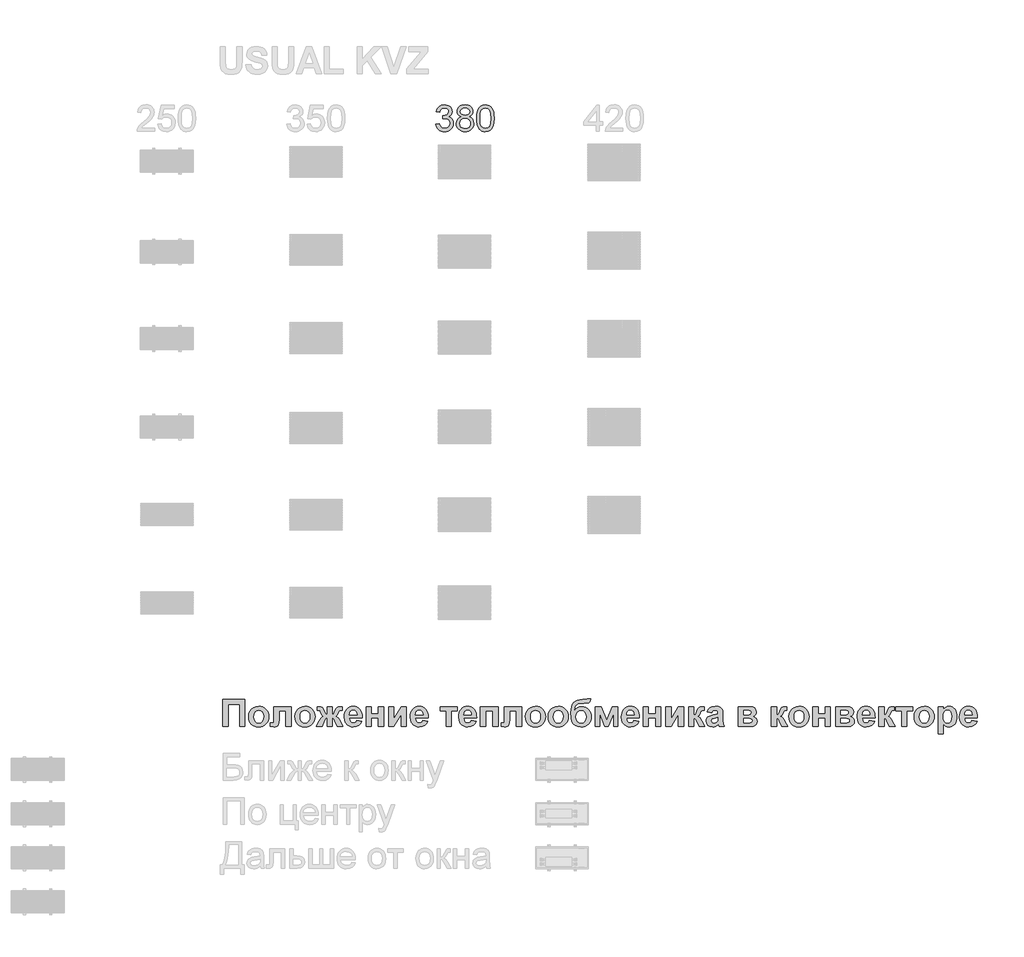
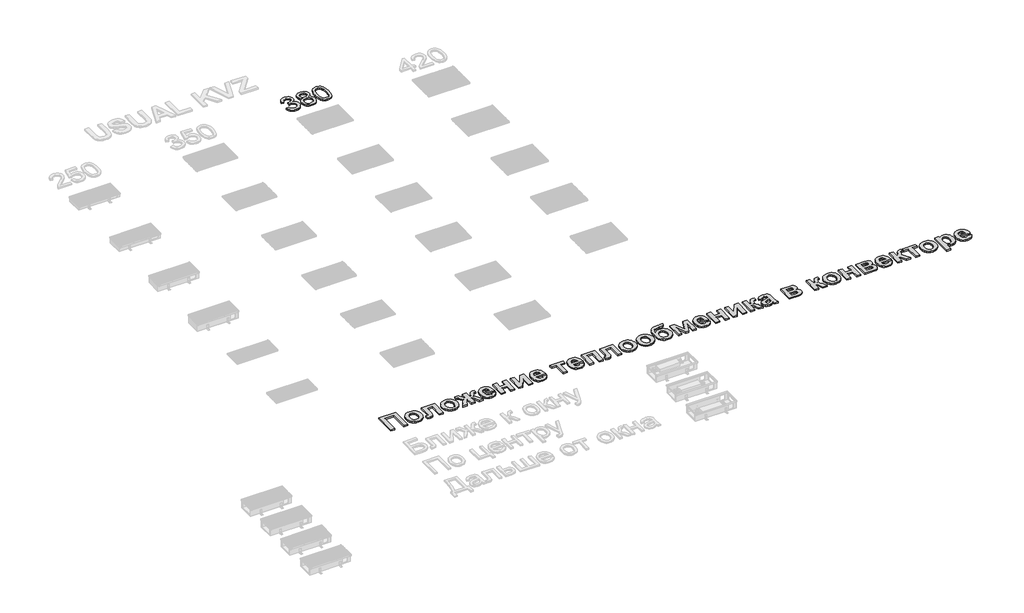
# One storey, part 11 of 12: 2 proxies.
"""IFC4 building model written with IfcOpenShell, lengths in millimetres."""

from ifc_helpers import new_model, si_unit, origin, origin_with_axes, place, context, project, spatial, polyline, outline, extrude, element, save

model = new_model("IFC4")

# Units and contexts
model_context = context("Model", 3, world=origin())
ifc_project = project(units=[si_unit("LENGTHUNIT", "METRE", prefix="MILLI")], contexts=[model_context])

# Site, building, storey
site = spatial("IfcSite", under=ifc_project)
building = spatial("IfcBuilding", under=site)
storey = spatial("IfcBuildingStorey", under=building, Name="Уровень 1", Elevation=0.0)

# Proxies
placement = place(None, origin())
element("IfcBuildingElementProxy", 1, Name="300", ObjectType="300", at=placement, inside=storey, context=model_context, shape_type="SweptSolid", body=[
    extrude(outline(polyline([(17013.8722853, -5473.9733656), (17051.5434016, -5469.264476), (17059.9770964, -5492.9376824), (17072.3287344, -5508.9221551), (17089.2053209, -5518.0272345), (17111.2138613, -5521.0622609), (17137.0391773, -5516.8868003), (17156.9783815, -5504.3604184), (17169.7254926, -5485.672013), (17173.9745296, -5463.0104821), (17169.7622808, -5441.4985824), (17157.1255343, -5424.0517788), (17137.9956705, -5412.4910871), (17114.30407, -5408.6375232), (17087.8901428, -5412.7578016), (17092.0839975, -5375.0866853), (17098.1172622, -5375.5281437), (17120.6868226, -5372.824211), (17140.8651501, -5364.712413), (17155.1021833, -5350.9904146), (17159.847861, -5331.4558806), (17156.4081644, -5315.1862994), (17146.0890744, -5301.9885328), (17130.343725, -5293.2421384), (17110.6252501, -5290.3266736), (17090.8699869, -5293.2697295), (17074.7199673, -5302.0988974), (17062.9293494, -5316.8141772), (17056.2522912, -5337.415569), (17018.5811749, -5332.7066794), (17029.672817, -5298.87993), (17049.4096861, -5273.624831), (17076.4122245, -5257.8978757), (17109.3008749, -5252.6555573), (17132.9832783, -5255.2399283), (17154.7343013, -5262.9930413), (17173.0732188, -5275.2251177), (17186.5193057, -5291.2463786), (17194.7690594, -5309.7048577), (17197.5189773, -5329.2485887), (17194.9070152, -5347.4587474), (17187.0711287, -5363.976649), (17174.1216824, -5378.0481353), (17156.1690411, -5388.9190483), (17179.750277, -5398.447192), (17197.2246717, -5414.6707879), (17208.0404024, -5436.7069194), (17211.6456459, -5463.6726697), (17209.8430242, -5482.7841393), (17204.4351588, -5500.3872928), (17195.42205, -5516.4821301), (17182.8036975, -5531.0686512), (17167.4308287, -5543.1719689), (17150.1541705, -5551.8171957), (17130.9737229, -5557.0043319), (17109.8894861, -5558.7333772), (17090.8331987, -5557.2572507), (17073.4691686, -5552.8288712), (17057.7973956, -5545.4482387), (17043.8178798, -5535.1153532), (17032.0962397, -5522.4372199), (17023.1980939, -5508.0208442), (17017.1234425, -5491.8662261), (17013.8722853, -5473.9733656)])), origin_with_axes(), (0.0, 0.0, 1.0), 20.0),
    extrude(outline(polyline([(17299.4958664, -5388.0361315), (17279.326736, -5378.1033176), (17265.1724762, -5364.6388366), (17256.8123579, -5347.9185999), (17254.0256518, -5328.2185191), (17255.543165, -5312.8548472), (17260.0957047, -5298.7695654), (17267.6832709, -5285.9626734), (17278.3058635, -5274.4341714), (17291.4530463, -5264.9060277), (17306.614383, -5258.1002108), (17342.9795182, -5252.6555573), (17379.5653826, -5258.2289695), (17394.8922663, -5265.1957348), (17408.2417842, -5274.9492062), (17419.0575148, -5286.7030359), (17426.7830367, -5299.6708762), (17431.4183499, -5313.8527272), (17432.9634542, -5329.2485887), (17430.2135363, -5348.3140731), (17421.9637826, -5364.7492012), (17408.1222225, -5378.1309088), (17388.5968856, -5388.0361315), (17411.7826484, -5399.9830993), (17428.6592349, -5417.5770557), (17438.9507337, -5439.9718722), (17442.3812333, -5466.3214201), (17440.6797791, -5485.110993), (17435.5754164, -5502.3370674), (17427.0681453, -5517.9996433), (17415.1579657, -5532.0987208), (17400.470277, -5543.751383), (17383.6304787, -5552.0747131), (17364.6385707, -5557.0687112), (17343.494553, -5558.7333772), (17322.3505353, -5557.0618134), (17303.3586273, -5552.047122), (17286.518829, -5543.6893029), (17271.8311404, -5531.9883562), (17259.9209608, -5517.7904104), (17251.4136896, -5501.9415942), (17246.3093269, -5484.4419076), (17244.6078727, -5465.2913505), (17248.1763281, -5437.92093), (17258.8816941, -5415.4065519), (17276.1721479, -5398.5207684), (17299.4958664, -5388.0361315)]), holes=[polyline([(17291.6967681, -5329.3221651), (17295.0352972, -5345.7664902), (17305.0508845, -5358.8998775), (17321.4492245, -5367.5083162), (17343.9360114, -5370.3777957), (17365.8985665, -5367.5267103), (17382.0485861, -5358.9734539), (17391.9814, -5346.281525), (17395.2923379, -5331.0144222), (17391.8710354, -5315.1679053), (17381.6071277, -5302.0621092), (17365.2363789, -5293.2605325), (17343.494553, -5290.3266736), (17321.6147714, -5293.1961531), (17305.2716137, -5301.8045918), (17295.0904795, -5314.4229443), (17291.6967681, -5329.3221651)]), polyline([(17282.278989, -5463.9669753), (17288.5697711, -5492.3306771), (17297.2793774, -5504.4983741), (17310.8266318, -5513.5574682), (17327.0502278, -5519.1860628), (17343.7888586, -5521.0622609), (17369.4302337, -5517.1167265), (17388.670462, -5505.2801234), (17400.7002033, -5487.3550731), (17404.710117, -5465.1441977), (17400.5714446, -5442.5562432), (17388.1554272, -5424.2357198), (17368.4737405, -5412.095614), (17342.5380598, -5408.048912), (17317.2553697, -5412.0404317), (17298.2082794, -5424.0149906), (17286.2613116, -5441.9860261), (17282.278989, -5463.9669753)])]), origin_with_axes(), (0.0, 0.0, 1.0), 20.0),
    extrude(outline(polyline([(17475.3434601, -5405.7680437), (17478.1117721, -5357.529517), (17486.4167081, -5319.0582574), (17500.1754948, -5289.7656535), (17519.3053585, -5269.0630942), (17543.9442551, -5256.7574415), (17574.2301404, -5252.6555573), (17597.4434943, -5255.0835784), (17618.228827, -5262.3676419), (17635.6112513, -5274.2226392), (17648.6158798, -5290.3634618), (17658.4383291, -5310.6521538), (17666.2742156, -5334.9507596), (17671.4061694, -5365.8068619), (17673.1168207, -5405.7680437), (17670.3760998, -5453.7306588), (17662.1539372, -5492.1099479), (17648.4779241, -5521.4301429), (17629.3756515, -5542.2154757), (17604.6815725, -5554.6039019), (17574.2301404, -5558.7333772), (17553.4815959, -5556.9399525), (17535.0874961, -5551.5596783), (17519.0478411, -5542.5925547), (17505.3626309, -5530.0385816), (17492.2292437, -5507.344861), (17482.8482528, -5479.0685312), (17477.2196583, -5445.2095921), (17475.3434601, -5405.7680437)]), holes=[polyline([(17513.0145764, -5405.6944673), (17517.4291603, -5464.9510596), (17522.9473903, -5485.2190583), (17530.6729122, -5499.2468586), (17550.3913871, -5515.6084104), (17574.2301404, -5521.0622609), (17598.0688937, -5515.5900163), (17617.7873686, -5499.1732822), (17625.5128905, -5485.1224893), (17631.0311205, -5464.8590891), (17635.4457044, -5405.6944673), (17631.1782732, -5347.7714471), (17625.8439843, -5327.5701271), (17618.3759798, -5313.2089337), (17598.6942931, -5296.0472386), (17573.788682, -5290.3266736), (17550.2074461, -5295.3666569), (17531.2615234, -5310.4866069), (17523.2784841, -5326.1215917), (17517.5763131, -5347.20123), (17513.0145764, -5405.6944673)])]), origin_with_axes(), (0.0, 0.0, 1.0), 20.0),
])
element("IfcBuildingElementProxy", 2, Name="300_", ObjectType="300_", at=placement, inside=storey, context=model_context, shape_type="SweptSolid", body=[
    extrude(outline(polyline([(14598.0356699, -12000.3985377), (14845.8129527, -12000.3985377), (14845.8129527, -12306.4763576), (14787.5124156, -12306.4763576), (14787.5124156, -12053.8406967), (14656.336207, -12053.8406967), (14656.336207, -12306.4763576), (14598.0356699, -12306.4763576), (14598.0356699, -12000.3985377)])), origin_with_axes(), (0.0, 0.0, 1.0), 20.0),
    extrude(outline(polyline([(14889.5383556, -12191.5453508), (14893.134694, -12162.6323078), (14903.9237095, -12134.6491886), (14921.2981046, -12110.3857652), (14944.6505821, -12092.6318093), (14972.529322, -12081.7573927), (15003.4825043, -12078.1325872), (15027.4731184, -12080.1869599), (15049.1911123, -12086.3500783), (15068.636486, -12096.6219421), (15085.8092394, -12111.0025515), (15099.8411273, -12128.5240264), (15109.8639044, -12148.2184868), (15115.8775706, -12170.0859327), (15117.882126, -12194.1263642), (15115.8562203, -12218.3589483), (15109.7785032, -12240.4232914), (15099.6489747, -12260.3193935), (15085.4676347, -12278.0472546), (15068.2165968, -12292.6105276), (15048.8779747, -12303.0128655), (15027.4517681, -12309.2542682), (15003.9379773, -12311.3347357), (14974.2088785, -12307.8712435), (14945.9031327, -12297.480767), (14921.6112422, -12280.3910424), (14903.9237095, -12256.8298065), (14893.134694, -12227.1101967), (14889.5383556, -12191.5453508)]), holes=[polyline([(14947.8388927, -12194.7336615), (14951.8717261, -12225.9050912), (14963.9702262, -12248.8210738), (14981.9898747, -12262.9122681), (15003.786153, -12267.6093329), (15025.5634532, -12262.9122681), (15043.5261675, -12248.8210738), (15055.5677336, -12225.791223), (15059.5815889, -12194.2781885), (15055.5677336, -12163.4483635), (15043.5261675, -12140.6462491), (15025.5634532, -12126.5550548), (15003.786153, -12121.85799), (14981.9898747, -12126.5550548), (14963.9702262, -12140.6462491), (14951.8717261, -12163.5622317), (14947.8388927, -12194.7336615)])]), origin_with_axes(), (0.0, 0.0, 1.0), 20.0),
    extrude(outline(polyline([(15176.1826632, -12082.9909653), (15370.517787, -12082.9909653), (15370.517787, -12306.4763576), (15312.2172498, -12306.4763576), (15312.2172498, -12126.7163681), (15234.4832003, -12126.7163681), (15234.4832003, -12230.108727), (15232.3386819, -12263.6429226), (15225.9051265, -12285.44869), (15216.8715797, -12298.6479164), (15206.9270871, -12306.3624894), (15193.3577889, -12310.0916742), (15173.4498255, -12311.3347357), (15137.3156384, -12307.7668643), (15137.3156384, -12266.5465627), (15146.5769217, -12267.0020356), (15159.8615493, -12267.6093329), (15168.9235631, -12265.5976607), (15173.6396059, -12259.5626442), (15176.1826632, -12214.7744711), (15176.1826632, -12082.9909653)])), origin_with_axes(), (0.0, 0.0, 1.0), 20.0),
    extrude(outline(polyline([(15414.2431898, -12191.5453508), (15417.8395283, -12162.6323078), (15428.6285437, -12134.6491886), (15446.0029388, -12110.3857652), (15469.3554164, -12092.6318093), (15497.2341563, -12081.7573927), (15528.1873386, -12078.1325872), (15552.1779527, -12080.1869599), (15573.8959466, -12086.3500783), (15593.3413202, -12096.6219421), (15610.5140737, -12111.0025515), (15624.5459616, -12128.5240264), (15634.5687386, -12148.2184868), (15640.5824049, -12170.0859327), (15642.5869603, -12194.1263642), (15640.5610546, -12218.3589483), (15634.4833375, -12240.4232914), (15624.3538089, -12260.3193935), (15610.172469, -12278.0472546), (15592.9214311, -12292.6105276), (15573.5828089, -12303.0128655), (15552.1566024, -12309.2542682), (15528.6428115, -12311.3347357), (15498.9137128, -12307.8712435), (15470.607967, -12297.480767), (15446.3160765, -12280.3910424), (15428.6285437, -12256.8298065), (15417.8395283, -12227.1101967), (15414.2431898, -12191.5453508)]), holes=[polyline([(15472.543727, -12194.7336615), (15476.5765604, -12225.9050912), (15488.6750605, -12248.8210738), (15506.6947089, -12262.9122681), (15528.4909872, -12267.6093329), (15550.2682875, -12262.9122681), (15568.2310018, -12248.8210738), (15580.2725678, -12225.791223), (15584.2864232, -12194.2781885), (15580.2725678, -12163.4483635), (15568.2310018, -12140.6462491), (15550.2682875, -12126.5550548), (15528.4909872, -12121.85799), (15506.6947089, -12126.5550548), (15488.6750605, -12140.6462491), (15476.5765604, -12163.5622317), (15472.543727, -12194.7336615)])]), origin_with_axes(), (0.0, 0.0, 1.0), 20.0),
    extrude(outline(polyline([(15778.621547, -12306.4763576), (15778.621547, -12209.3087957), (15763.4011593, -12214.5467346), (15748.332596, -12240.6605169), (15721.6115165, -12306.4763576), (15657.1620946, -12306.4763576), (15688.1342549, -12243.621091), (15712.1414748, -12206.063551), (15724.500923, -12194.9281864), (15737.0975967, -12188.8884253), (15720.8523949, -12176.2490511), (15708.858274, -12152.4505896), (15701.8079324, -12134.9148812), (15695.383866, -12126.184983), (15685.2021479, -12122.9397383), (15666.8788508, -12121.85799), (15666.8788508, -12083.9778233), (15690.3357075, -12082.9909653), (15707.7955038, -12085.0216155), (15722.5224624, -12091.1135662), (15735.4844633, -12105.2901616), (15747.6493866, -12131.5747462), (15762.2245209, -12163.4198964), (15769.0566151, -12168.4965219), (15778.621547, -12170.441771), (15778.621547, -12082.9909653), (15836.9220841, -12082.9909653), (15836.9220841, -12170.441771), (15846.515483, -12168.7052804), (15853.4329784, -12163.4958086), (15867.8942445, -12131.5747462), (15879.8124532, -12105.5273871), (15892.4897836, -12091.3033465), (15907.3875445, -12085.0690606), (15925.9670451, -12082.9909653), (15948.6647803, -12083.9778233), (15948.6647803, -12121.85799), (15930.4363734, -12122.9397383), (15920.2356772, -12126.184983), (15913.7546768, -12134.9148812), (15906.6853571, -12152.4505896), (15894.6912361, -12176.2490511), (15878.4460344, -12188.8884253), (15891.0427081, -12194.9281864), (15903.4021562, -12206.063551), (15927.4093761, -12243.621091), (15958.3815365, -12306.4763576), (15893.9321146, -12306.4763576), (15867.4387715, -12240.6605169), (15854.1541439, -12216.5963629), (15846.8096426, -12211.5482044), (15836.9220841, -12209.3087957), (15836.9220841, -12306.4763576), (15778.621547, -12306.4763576)])), origin_with_axes(), (0.0, 0.0, 1.0), 20.0),
    extrude(outline(polyline([(16113.8496355, -12238.4590643), (16172.1501727, -12248.1758205), (16157.9545992, -12275.38084), (16137.3824044, -12295.2034022), (16110.6423469, -12307.3019024), (16077.9431849, -12311.3347357), (16051.5399876, -12308.9577363), (16028.8090408, -12301.826738), (16009.7503447, -12289.9417408), (15994.3638992, -12273.3027447), (15984.9982368, -12257.0812655), (15978.3084779, -12238.8576031), (15972.9566708, -12196.4037289), (15974.7311175, -12170.1950565), (15980.0544575, -12146.9849142), (15988.9266909, -12126.7733022), (16001.3478178, -12109.5602205), (16016.4828042, -12095.8106309), (16033.4966166, -12085.9894955), (16052.3892548, -12080.0968143), (16073.160719, -12078.1325872), (16096.2427594, -12080.1490039), (16116.7532756, -12086.1982539), (16134.6922673, -12096.2803374), (16150.0597348, -12110.3952542), (16162.3053147, -12128.6758507), (16170.878644, -12151.2549731), (16175.7797227, -12178.1326215), (16177.0085508, -12209.3087957), (16031.2572079, -12209.3087957), (16034.9958817, -12233.8663788), (16044.9973085, -12252.275077), (16059.7432451, -12263.7757689), (16077.7154484, -12267.6093329), (16089.9562839, -12265.8823313), (16100.109535, -12260.7013265), (16108.0992896, -12251.6867578), (16113.8496355, -12238.4590643)]), holes=[polyline([(16118.7080136, -12175.3001491), (16115.1591202, -12152.2513202), (16105.7270346, -12135.4842223), (16092.0248902, -12125.2645481), (16075.6658202, -12121.85799), (16058.3958043, -12125.4448395), (16044.3900112, -12136.2053878), (16035.2046401, -12153.1907331), (16032.244066, -12175.3001491), (16118.7080136, -12175.3001491)])]), origin_with_axes(), (0.0, 0.0, 1.0), 20.0),
    extrude(outline(polyline([(16220.7339536, -12082.9909653), (16279.0344908, -12082.9909653), (16279.0344908, -12165.5833929), (16361.6269184, -12165.5833929), (16361.6269184, -12082.9909653), (16419.9274555, -12082.9909653), (16419.9274555, -12306.4763576), (16361.6269184, -12306.4763576), (16361.6269184, -12209.3087957), (16279.0344908, -12209.3087957), (16279.0344908, -12306.4763576), (16220.7339536, -12306.4763576), (16220.7339536, -12082.9909653)])), origin_with_axes(), (0.0, 0.0, 1.0), 20.0),
    extrude(outline(polyline([(16478.2279926, -12082.9909653), (16536.5285298, -12082.9909653), (16536.5285298, -12220.4678829), (16619.1209574, -12082.9909653), (16677.4214945, -12082.9909653), (16677.4214945, -12306.4763576), (16619.1209574, -12306.4763576), (16619.1209574, -12168.9235278), (16536.5285298, -12306.4763576), (16478.2279926, -12306.4763576), (16478.2279926, -12082.9909653)])), origin_with_axes(), (0.0, 0.0, 1.0), 20.0),
    extrude(outline(polyline([(16862.0398622, -12238.4590643), (16920.3403993, -12248.1758205), (16906.1448258, -12275.38084), (16885.5726311, -12295.2034022), (16858.8325735, -12307.3019024), (16826.1334115, -12311.3347357), (16799.7302142, -12308.9577363), (16776.9992675, -12301.826738), (16757.9405714, -12289.9417408), (16742.5541259, -12273.3027447), (16733.1884634, -12257.0812655), (16726.4987045, -12238.8576031), (16721.1468974, -12196.4037289), (16722.9213441, -12170.1950565), (16728.2446841, -12146.9849142), (16737.1169176, -12126.7733022), (16749.5380444, -12109.5602205), (16764.6730308, -12095.8106309), (16781.6868432, -12085.9894955), (16800.5794815, -12080.0968143), (16821.3509456, -12078.1325872), (16844.4329861, -12080.1490039), (16864.9435022, -12086.1982539), (16882.882494, -12096.2803374), (16898.2499614, -12110.3952542), (16910.4955413, -12128.6758507), (16919.0688707, -12151.2549731), (16923.9699493, -12178.1326215), (16925.1987774, -12209.3087957), (16779.4474345, -12209.3087957), (16783.1861083, -12233.8663788), (16793.1875351, -12252.275077), (16807.9334717, -12263.7757689), (16825.9056751, -12267.6093329), (16838.1465105, -12265.8823313), (16848.2997616, -12260.7013265), (16856.2895162, -12251.6867578), (16862.0398622, -12238.4590643)]), holes=[polyline([(16866.8982403, -12175.3001491), (16863.3493469, -12152.2513202), (16853.9172613, -12135.4842223), (16840.2151168, -12125.2645481), (16823.8560468, -12121.85799), (16806.5860309, -12125.4448395), (16792.5802378, -12136.2053878), (16783.3948667, -12153.1907331), (16780.4342926, -12175.3001491), (16866.8982403, -12175.3001491)])]), origin_with_axes(), (0.0, 0.0, 1.0), 20.0),
    extrude(outline(polyline([(17061.2333641, -12082.9909653), (17255.5684879, -12082.9909653), (17255.5684879, -12126.7163681), (17187.5511945, -12126.7163681), (17187.5511945, -12306.4763576), (17129.2506574, -12306.4763576), (17129.2506574, -12126.7163681), (17061.2333641, -12126.7163681), (17061.2333641, -12082.9909653)])), origin_with_axes(), (0.0, 0.0, 1.0), 20.0),
    extrude(outline(polyline([(17411.0365869, -12238.4590643), (17469.337124, -12248.1758205), (17455.1415505, -12275.38084), (17434.5693558, -12295.2034022), (17407.8292982, -12307.3019024), (17375.1301363, -12311.3347357), (17348.7269389, -12308.9577363), (17325.9959922, -12301.826738), (17306.9372961, -12289.9417408), (17291.5508506, -12273.3027447), (17282.1851882, -12257.0812655), (17275.4954293, -12238.8576031), (17270.1436221, -12196.4037289), (17271.9180688, -12170.1950565), (17277.2414089, -12146.9849142), (17286.1136423, -12126.7733022), (17298.5347691, -12109.5602205), (17313.6697556, -12095.8106309), (17330.6835679, -12085.9894955), (17349.5762062, -12080.0968143), (17370.3476703, -12078.1325872), (17393.4297108, -12080.1490039), (17413.9402269, -12086.1982539), (17431.8792187, -12096.2803374), (17447.2466861, -12110.3952542), (17459.4922661, -12128.6758507), (17468.0655954, -12151.2549731), (17472.9666741, -12178.1326215), (17474.1955021, -12209.3087957), (17328.4441593, -12209.3087957), (17332.182833, -12233.8663788), (17342.1842598, -12252.275077), (17356.9301965, -12263.7757689), (17374.9023998, -12267.6093329), (17387.1432352, -12265.8823313), (17397.2964863, -12260.7013265), (17405.2862409, -12251.6867578), (17411.0365869, -12238.4590643)]), holes=[polyline([(17415.894965, -12175.3001491), (17412.3460716, -12152.2513202), (17402.913986, -12135.4842223), (17389.2118415, -12125.2645481), (17372.8527716, -12121.85799), (17355.5827557, -12125.4448395), (17341.5769626, -12136.2053878), (17332.3915915, -12153.1907331), (17329.4310173, -12175.3001491), (17415.894965, -12175.3001491)])]), origin_with_axes(), (0.0, 0.0, 1.0), 20.0),
    extrude(outline(polyline([(17517.920905, -12082.9909653), (17717.1144069, -12082.9909653), (17717.1144069, -12306.4763576), (17658.8138697, -12306.4763576), (17658.8138697, -12126.7163681), (17576.2214421, -12126.7163681), (17576.2214421, -12306.4763576), (17517.920905, -12306.4763576), (17517.920905, -12082.9909653)])), origin_with_axes(), (0.0, 0.0, 1.0), 20.0),
    extrude(outline(polyline([(17789.9900783, -12082.9909653), (17984.3252021, -12082.9909653), (17984.3252021, -12306.4763576), (17926.024665, -12306.4763576), (17926.024665, -12126.7163681), (17848.2906154, -12126.7163681), (17848.2906154, -12230.108727), (17846.146097, -12263.6429226), (17839.7125416, -12285.44869), (17830.6789949, -12298.6479164), (17820.7345022, -12306.3624894), (17807.165204, -12310.0916742), (17787.2572406, -12311.3347357), (17751.1230535, -12307.7668643), (17751.1230535, -12266.5465627), (17760.3843368, -12267.0020356), (17773.6689644, -12267.6093329), (17782.7309782, -12265.5976607), (17787.447021, -12259.5626442), (17789.9900783, -12214.7744711), (17789.9900783, -12082.9909653)])), origin_with_axes(), (0.0, 0.0, 1.0), 20.0),
    extrude(outline(polyline([(18028.050605, -12191.5453508), (18031.6469434, -12162.6323078), (18042.4359589, -12134.6491886), (18059.810354, -12110.3857652), (18083.1628315, -12092.6318093), (18111.0415714, -12081.7573927), (18141.9947537, -12078.1325872), (18165.9853678, -12080.1869599), (18187.7033617, -12086.3500783), (18207.1487354, -12096.6219421), (18224.3214888, -12111.0025515), (18238.3533767, -12128.5240264), (18248.3761538, -12148.2184868), (18254.38982, -12170.0859327), (18256.3943754, -12194.1263642), (18254.3684697, -12218.3589483), (18248.2907526, -12240.4232914), (18238.161224, -12260.3193935), (18223.9798841, -12278.0472546), (18206.7288462, -12292.6105276), (18187.390224, -12303.0128655), (18165.9640175, -12309.2542682), (18142.4502267, -12311.3347357), (18112.7211279, -12307.8712435), (18084.4153821, -12297.480767), (18060.1234916, -12280.3910424), (18042.4359589, -12256.8298065), (18031.6469434, -12227.1101967), (18028.050605, -12191.5453508)]), holes=[polyline([(18086.3511421, -12194.7336615), (18090.3839755, -12225.9050912), (18102.4824756, -12248.8210738), (18120.5021241, -12262.9122681), (18142.2984024, -12267.6093329), (18164.0757026, -12262.9122681), (18182.0384169, -12248.8210738), (18194.079983, -12225.791223), (18198.0938383, -12194.2781885), (18194.079983, -12163.4483635), (18182.0384169, -12140.6462491), (18164.0757026, -12126.5550548), (18142.2984024, -12121.85799), (18120.5021241, -12126.5550548), (18102.4824756, -12140.6462491), (18090.3839755, -12163.5622317), (18086.3511421, -12194.7336615)])]), origin_with_axes(), (0.0, 0.0, 1.0), 20.0),
    extrude(outline(polyline([(18285.544644, -12191.5453508), (18289.1409825, -12162.6323078), (18299.9299979, -12134.6491886), (18317.304393, -12110.3857652), (18340.6568705, -12092.6318093), (18368.5356104, -12081.7573927), (18399.4887928, -12078.1325872), (18423.4794069, -12080.1869599), (18445.1974007, -12086.3500783), (18464.6427744, -12096.6219421), (18481.8155278, -12111.0025515), (18495.8474157, -12128.5240264), (18505.8701928, -12148.2184868), (18511.8838591, -12170.0859327), (18513.8884145, -12194.1263642), (18511.8625088, -12218.3589483), (18505.7847916, -12240.4232914), (18495.6552631, -12260.3193935), (18481.4739231, -12278.0472546), (18464.2228853, -12292.6105276), (18444.8842631, -12303.0128655), (18423.4580566, -12309.2542682), (18399.9442657, -12311.3347357), (18370.2151669, -12307.8712435), (18341.9094211, -12297.480767), (18317.6175306, -12280.3910424), (18299.9299979, -12256.8298065), (18289.1409825, -12227.1101967), (18285.544644, -12191.5453508)]), holes=[polyline([(18343.8451811, -12194.7336615), (18347.8780145, -12225.9050912), (18359.9765147, -12248.8210738), (18377.9961631, -12262.9122681), (18399.7924414, -12267.6093329), (18421.5697416, -12262.9122681), (18439.532456, -12248.8210738), (18451.574022, -12225.791223), (18455.5878773, -12194.2781885), (18451.574022, -12163.4483635), (18439.532456, -12140.6462491), (18421.5697416, -12126.5550548), (18399.7924414, -12121.85799), (18377.9961631, -12126.5550548), (18359.9765147, -12140.6462491), (18347.8780145, -12163.5622317), (18343.8451811, -12194.7336615)])]), origin_with_axes(), (0.0, 0.0, 1.0), 20.0),
    extrude(outline(polyline([(18727.6570506, -11990.6817815), (18766.5240754, -11990.6817815), (18761.9313899, -12013.8919237), (18752.1007654, -12030.6874886), (18743.5891148, -12036.6323594), (18730.5037566, -12040.8786958), (18690.6119177, -12044.2757648), (18678.8455332, -12044.1239405), (18671.1024931, -12044.1239405), (18644.7419964, -12045.6232056), (18623.8092189, -12050.121001), (18607.2413904, -12058.9268113), (18593.9757409, -12073.3501212), (18585.1509525, -12095.8770541), (18581.9057078, -12128.9937329), (18597.391788, -12108.8200769), (18616.8253004, -12094.4537011), (18640.2631791, -12085.8566492), (18667.7623582, -12082.9909653), (18689.6250596, -12085.1354837), (18709.7417814, -12091.5690391), (18728.1125236, -12102.2916314), (18744.7372861, -12117.3032606), (18758.5200873, -12135.1331286), (18768.3649452, -12154.3104375), (18774.27186, -12174.8351871), (18776.2408316, -12196.7073776), (18774.1935756, -12219.4098572), (18768.0518076, -12240.4517585), (18757.8155276, -12259.8330812), (18743.4847355, -12277.5538256), (18725.8517646, -12292.3329738), (18705.708948, -12302.8895082), (18683.0562857, -12309.2234289), (18657.8937777, -12311.3347357), (18623.8092189, -12307.0931439), (18594.1275652, -12294.3683685), (18570.5663292, -12274.2801137), (18554.8430236, -12247.948084), (18545.9897682, -12208.8343448), (18543.038683, -12150.4009613), (18544.9412315, -12113.2087486), (18550.6488769, -12081.6435245), (18560.1616191, -12055.7052891), (18573.4794583, -12035.3940424), (18591.5370628, -12020.0835091), (18615.2691011, -12009.1474138), (18644.6755732, -12002.5857567), (18679.7564791, -12000.3985377), (18710.500903, -12000.3985377), (18721.2045172, -11997.9693486), (18727.6570506, -11990.6817815)]), holes=[polyline([(18601.3392202, -12197.0869384), (18605.4954108, -12226.256185), (18617.9639827, -12248.6312935), (18636.4675712, -12262.864823), (18658.7288114, -12267.6093329), (18682.3564705, -12262.6940207), (18701.3155319, -12247.948084), (18713.7841038, -12225.4401293), (18717.9402945, -12197.2387627), (18713.7271697, -12168.6388572), (18701.0877954, -12146.1498805), (18682.2426023, -12131.5747462), (18659.4120208, -12126.7163681), (18637.0653794, -12131.489345), (18618.3055874, -12145.8082758), (18605.580812, -12168.1738953), (18601.3392202, -12197.0869384)])]), origin_with_axes(), (0.0, 0.0, 1.0), 20.0),
    extrude(outline(polyline([(18819.9662345, -12082.9909653), (18886.6930211, -12082.9909653), (18948.713254, -12238.6868008), (19011.3407841, -12082.9909653), (19077.4602735, -12082.9909653), (19077.4602735, -12306.4763576), (19028.8764925, -12306.4763576), (19028.8764925, -12159.358596), (18969.6650095, -12306.4763576), (18927.1542012, -12306.4763576), (18868.5500154, -12159.358596), (18868.5500154, -12306.4763576), (18819.9662345, -12306.4763576), (18819.9662345, -12082.9909653)])), origin_with_axes(), (0.0, 0.0, 1.0), 20.0),
    extrude(outline(polyline([(19257.220263, -12238.4590643), (19315.5208001, -12248.1758205), (19301.3252267, -12275.38084), (19280.7530319, -12295.2034022), (19254.0129743, -12307.3019024), (19221.3138124, -12311.3347357), (19194.910615, -12308.9577363), (19172.1796683, -12301.826738), (19153.1209722, -12289.9417408), (19137.7345267, -12273.3027447), (19128.3688643, -12257.0812655), (19121.6791054, -12238.8576031), (19116.3272983, -12196.4037289), (19118.1017449, -12170.1950565), (19123.425085, -12146.9849142), (19132.2973184, -12126.7733022), (19144.7184452, -12109.5602205), (19159.8534317, -12095.8106309), (19176.867244, -12085.9894955), (19195.7598823, -12080.0968143), (19216.5313465, -12078.1325872), (19239.6133869, -12080.1490039), (19260.123903, -12086.1982539), (19278.0628948, -12096.2803374), (19293.4303622, -12110.3952542), (19305.6759422, -12128.6758507), (19314.2492715, -12151.2549731), (19319.1503502, -12178.1326215), (19320.3791782, -12209.3087957), (19174.6278354, -12209.3087957), (19178.3665092, -12233.8663788), (19188.3679359, -12252.275077), (19203.1138726, -12263.7757689), (19221.0860759, -12267.6093329), (19233.3269114, -12265.8823313), (19243.4801625, -12260.7013265), (19251.4699171, -12251.6867578), (19257.220263, -12238.4590643)]), holes=[polyline([(19262.0786411, -12175.3001491), (19258.5297477, -12152.2513202), (19249.0976621, -12135.4842223), (19235.3955177, -12125.2645481), (19219.0364477, -12121.85799), (19201.7664318, -12125.4448395), (19187.7606387, -12136.2053878), (19178.5752676, -12153.1907331), (19175.6146934, -12175.3001491), (19262.0786411, -12175.3001491)])]), origin_with_axes(), (0.0, 0.0, 1.0), 20.0),
    extrude(outline(polyline([(19364.1045811, -12082.9909653), (19422.4051182, -12082.9909653), (19422.4051182, -12165.5833929), (19504.9975459, -12165.5833929), (19504.9975459, -12082.9909653), (19563.298083, -12082.9909653), (19563.298083, -12306.4763576), (19504.9975459, -12306.4763576), (19504.9975459, -12209.3087957), (19422.4051182, -12209.3087957), (19422.4051182, -12306.4763576), (19364.1045811, -12306.4763576), (19364.1045811, -12082.9909653)])), origin_with_axes(), (0.0, 0.0, 1.0), 20.0),
    extrude(outline(polyline([(19621.5986201, -12082.9909653), (19679.8991573, -12082.9909653), (19679.8991573, -12220.4678829), (19762.4915849, -12082.9909653), (19820.792122, -12082.9909653), (19820.792122, -12306.4763576), (19762.4915849, -12306.4763576), (19762.4915849, -12168.9235278), (19679.8991573, -12306.4763576), (19621.5986201, -12306.4763576), (19621.5986201, -12082.9909653)])), origin_with_axes(), (0.0, 0.0, 1.0), 20.0),
    extrude(outline(polyline([(19879.0926592, -12082.9909653), (19937.3931963, -12082.9909653), (19937.3931963, -12175.3001491), (19949.7004549, -12172.2162177), (19957.7756107, -12166.3045584), (19972.2368767, -12134.3075839), (19983.8514368, -12107.3397899), (19996.5287672, -12092.1763364), (20011.7871109, -12085.287308), (20031.1447111, -12082.9909653), (20053.9942706, -12083.9778233), (20054.2220071, -12121.85799), (20035.5096602, -12122.9966724), (20025.0717385, -12126.4127195), (20018.4294247, -12135.8258271), (20011.2557258, -12154.6520422), (19999.0148904, -12180.2913735), (19982.3331937, -12193.7468034), (19995.5798652, -12199.6157621), (20007.7637665, -12209.5555103), (20028.9432585, -12241.6473749), (20031.2206233, -12245.9743679), (20063.7110268, -12306.4763576), (19998.1988347, -12306.4763576), (19970.5668092, -12243.9247397), (19955.8398506, -12219.556937), (19948.1157886, -12215.5146146), (19937.3931963, -12214.1671738), (19937.3931963, -12306.4763576), (19879.0926592, -12306.4763576), (19879.0926592, -12082.9909653)])), origin_with_axes(), (0.0, 0.0, 1.0), 20.0),
    extrude(outline(polyline([(20141.4450763, -12151.0082586), (20088.0029173, -12141.2915024), (20099.5890103, -12113.2799162), (20117.3429662, -12093.6186674), (20143.219523, -12082.0041072), (20179.1734187, -12078.1325872), (20211.6828002, -12080.4763751), (20234.665206, -12087.5077387), (20250.1892423, -12098.1354407), (20260.3235153, -12111.268244), (20265.9030589, -12131.6791254), (20267.7629068, -12164.1410619), (20267.7629068, -12233.0693011), (20270.8373492, -12276.4910553), (20282.3380411, -12306.4763576), (20224.0375039, -12306.4763576), (20218.5718286, -12287.9537912), (20216.5222003, -12280.5903119), (20201.434659, -12294.0172748), (20185.3223035, -12303.6296517), (20168.1471778, -12309.4084647), (20149.8713258, -12311.3347357), (20120.142227, -12306.656649), (20097.4539809, -12292.6223889), (20083.078116, -12271.4523859), (20078.2861611, -12245.3670707), (20080.4211905, -12227.4897575), (20086.8262788, -12211.6620726), (20097.0839091, -12198.5862035), (20110.7765646, -12188.9643375), (20155.1851769, -12175.2242369), (20209.4623696, -12160.7250148), (20209.4623696, -12154.57613), (20207.6499669, -12139.4316546), (20202.2127586, -12129.3732937), (20191.7653479, -12123.7368159), (20174.9223379, -12121.85799), (20162.8333267, -12123.4711234), (20153.7428459, -12128.3105234), (20146.8727956, -12137.2112239), (20141.4450763, -12151.0082586)]), holes=[polyline([(20209.4623696, -12204.4504177), (20176.5924053, -12212.5350625), (20147.1384881, -12221.7583896), (20139.2246457, -12230.0517928), (20136.5866982, -12240.3568683), (20138.7027496, -12250.6904107), (20145.0509038, -12259.5246881), (20154.6632808, -12265.5881717), (20166.5720005, -12267.6093329), (20180.8624642, -12265.256056), (20194.4317624, -12258.1962253), (20202.5923194, -12250.2634048), (20207.3368292, -12240.736429), (20209.4623696, -12215.0022076), (20209.4623696, -12204.4504177)])]), origin_with_axes(), (0.0, 0.0, 1.0), 20.0),
    extrude(outline(polyline([(20442.6645182, -12082.9909653), (20569.134173, -12082.9909653), (20603.1712867, -12086.6537269), (20627.396754, -12097.6420117), (20641.8864872, -12115.9937759), (20646.7163982, -12141.7469754), (20644.0594727, -12159.4250191), (20636.0886961, -12174.6548957), (20624.0945752, -12186.316901), (20609.3676166, -12193.2913305), (20630.1011247, -12201.3664862), (20644.7806382, -12214.3569542), (20653.5200253, -12230.5357329), (20656.4331544, -12248.1758205), (20651.7076226, -12271.6896114), (20637.5310271, -12290.3070681), (20614.1121264, -12302.4340352), (20581.659679, -12306.4763576), (20442.6645182, -12306.4763576), (20442.6645182, -12082.9909653)]), holes=[polyline([(20500.9650553, -12175.3001491), (20537.858364, -12175.3001491), (20560.8787258, -12173.6111036), (20576.4976523, -12168.543967), (20585.4363089, -12159.8330469), (20588.415861, -12147.2126507), (20585.6355783, -12135.5032004), (20577.2947299, -12127.7032262), (20561.8750729, -12123.3192991), (20537.858364, -12121.85799), (20500.9650553, -12121.85799), (20500.9650553, -12175.3001491)]), polyline([(20500.9650553, -12267.6093329), (20548.7138026, -12267.6093329), (20570.9750428, -12266.1764909), (20586.2903206, -12261.877965), (20595.1720431, -12253.8597433), (20598.1326172, -12241.2678142), (20594.7450372, -12228.2488791), (20584.5822971, -12220.01241), (20564.6458667, -12215.6284829), (20531.9372157, -12214.1671738), (20500.9650553, -12214.1671738), (20500.9650553, -12267.6093329)])]), origin_with_axes(), (0.0, 0.0, 1.0), 20.0),
    extrude(outline(polyline([(20816.7596315, -12082.9909653), (20875.0601687, -12082.9909653), (20875.0601687, -12175.3001491), (20887.3674272, -12172.2162177), (20895.442583, -12166.3045584), (20909.9038491, -12134.3075839), (20921.5184092, -12107.3397899), (20934.1957395, -12092.1763364), (20949.4540832, -12085.287308), (20968.8116835, -12082.9909653), (20991.6612429, -12083.9778233), (20991.8889794, -12121.85799), (20973.1766325, -12122.9966724), (20962.7387108, -12126.4127195), (20956.096397, -12135.8258271), (20948.9226981, -12154.6520422), (20936.6818627, -12180.2913735), (20920.000166, -12193.7468034), (20933.2468376, -12199.6157621), (20945.4307389, -12209.5555103), (20966.6102309, -12241.6473749), (20968.8875956, -12245.9743679), (21001.3779991, -12306.4763576), (20935.865807, -12306.4763576), (20908.2337816, -12243.9247397), (20893.506823, -12219.556937), (20885.7827609, -12215.5146146), (20875.0601687, -12214.1671738), (20875.0601687, -12306.4763576), (20816.7596315, -12306.4763576), (20816.7596315, -12082.9909653)])), origin_with_axes(), (0.0, 0.0, 1.0), 20.0),
    extrude(outline(polyline([(21015.9531334, -12191.5453508), (21019.5494719, -12162.6323078), (21030.3384873, -12134.6491886), (21047.7128824, -12110.3857652), (21071.0653599, -12092.6318093), (21098.9440999, -12081.7573927), (21129.8972822, -12078.1325872), (21153.8878963, -12080.1869599), (21175.6058901, -12086.3500783), (21195.0512638, -12096.6219421), (21212.2240172, -12111.0025515), (21226.2559051, -12128.5240264), (21236.2786822, -12148.2184868), (21242.2923485, -12170.0859327), (21244.2969039, -12194.1263642), (21242.2709982, -12218.3589483), (21236.193281, -12240.4232914), (21226.0637525, -12260.3193935), (21211.8824125, -12278.0472546), (21194.6313747, -12292.6105276), (21175.2927525, -12303.0128655), (21153.866546, -12309.2542682), (21130.3527551, -12311.3347357), (21100.6236563, -12307.8712435), (21072.3179105, -12297.480767), (21048.0260201, -12280.3910424), (21030.3384873, -12256.8298065), (21019.5494719, -12227.1101967), (21015.9531334, -12191.5453508)]), holes=[polyline([(21074.2536706, -12194.7336615), (21078.2865039, -12225.9050912), (21090.3850041, -12248.8210738), (21108.4046525, -12262.9122681), (21130.2009308, -12267.6093329), (21151.9782311, -12262.9122681), (21169.9409454, -12248.8210738), (21181.9825114, -12225.791223), (21185.9963667, -12194.2781885), (21181.9825114, -12163.4483635), (21169.9409454, -12140.6462491), (21151.9782311, -12126.5550548), (21130.2009308, -12121.85799), (21108.4046525, -12126.5550548), (21090.3850041, -12140.6462491), (21078.2865039, -12163.5622317), (21074.2536706, -12194.7336615)])]), origin_with_axes(), (0.0, 0.0, 1.0), 20.0),
    extrude(outline(polyline([(21288.0223067, -12082.9909653), (21346.3228439, -12082.9909653), (21346.3228439, -12165.5833929), (21428.9152715, -12165.5833929), (21428.9152715, -12082.9909653), (21487.2158086, -12082.9909653), (21487.2158086, -12306.4763576), (21428.9152715, -12306.4763576), (21428.9152715, -12209.3087957), (21346.3228439, -12209.3087957), (21346.3228439, -12306.4763576), (21288.0223067, -12306.4763576), (21288.0223067, -12082.9909653)])), origin_with_axes(), (0.0, 0.0, 1.0), 20.0),
    extrude(outline(polyline([(21545.5163458, -12082.9909653), (21671.9860006, -12082.9909653), (21706.0231143, -12086.6537269), (21730.2485816, -12097.6420117), (21744.7383147, -12115.9937759), (21749.5682258, -12141.7469754), (21746.9113002, -12159.4250191), (21738.9405237, -12174.6548957), (21726.9464028, -12186.316901), (21712.2194442, -12193.2913305), (21732.9529522, -12201.3664862), (21747.6324657, -12214.3569542), (21756.3718529, -12230.5357329), (21759.2849819, -12248.1758205), (21754.5594501, -12271.6896114), (21740.3828547, -12290.3070681), (21716.963954, -12302.4340352), (21684.5115066, -12306.4763576), (21545.5163458, -12306.4763576), (21545.5163458, -12082.9909653)]), holes=[polyline([(21603.8168829, -12175.3001491), (21640.7101916, -12175.3001491), (21663.7305534, -12173.6111036), (21679.3494799, -12168.543967), (21688.2881364, -12159.8330469), (21691.2676886, -12147.2126507), (21688.4874058, -12135.5032004), (21680.1465575, -12127.7032262), (21664.7269005, -12123.3192991), (21640.7101916, -12121.85799), (21603.8168829, -12121.85799), (21603.8168829, -12175.3001491)]), polyline([(21603.8168829, -12267.6093329), (21651.5656301, -12267.6093329), (21673.8268704, -12266.1764909), (21689.1421482, -12261.877965), (21698.0238707, -12253.8597433), (21700.9844448, -12241.2678142), (21697.5968648, -12228.2488791), (21687.4341247, -12220.01241), (21667.4976942, -12215.6284829), (21634.7890433, -12214.1671738), (21603.8168829, -12214.1671738), (21603.8168829, -12267.6093329)])]), origin_with_axes(), (0.0, 0.0, 1.0), 20.0),
    extrude(outline(polyline([(21929.3282153, -12238.4590643), (21987.6287524, -12248.1758205), (21973.4331789, -12275.38084), (21952.8609842, -12295.2034022), (21926.1209266, -12307.3019024), (21893.4217647, -12311.3347357), (21867.0185673, -12308.9577363), (21844.2876206, -12301.826738), (21825.2289245, -12289.9417408), (21809.842479, -12273.3027447), (21800.4768165, -12257.0812655), (21793.7870576, -12238.8576031), (21788.4352505, -12196.4037289), (21790.2096972, -12170.1950565), (21795.5330373, -12146.9849142), (21804.4052707, -12126.7733022), (21816.8263975, -12109.5602205), (21831.961384, -12095.8106309), (21848.9751963, -12085.9894955), (21867.8678346, -12080.0968143), (21888.6392987, -12078.1325872), (21911.7213392, -12080.1490039), (21932.2318553, -12086.1982539), (21950.1708471, -12096.2803374), (21965.5383145, -12110.3952542), (21977.7838945, -12128.6758507), (21986.3572238, -12151.2549731), (21991.2583025, -12178.1326215), (21992.4871305, -12209.3087957), (21846.7357877, -12209.3087957), (21850.4744614, -12233.8663788), (21860.4758882, -12252.275077), (21875.2218249, -12263.7757689), (21893.1940282, -12267.6093329), (21905.4348636, -12265.8823313), (21915.5881147, -12260.7013265), (21923.5778693, -12251.6867578), (21929.3282153, -12238.4590643)]), holes=[polyline([(21934.1865934, -12175.3001491), (21930.6377, -12152.2513202), (21921.2056144, -12135.4842223), (21907.5034699, -12125.2645481), (21891.1443999, -12121.85799), (21873.8743841, -12125.4448395), (21859.8685909, -12136.2053878), (21850.6832199, -12153.1907331), (21847.7226457, -12175.3001491), (21934.1865934, -12175.3001491)])]), origin_with_axes(), (0.0, 0.0, 1.0), 20.0),
    extrude(outline(polyline([(22036.2125334, -12082.9909653), (22094.5130705, -12082.9909653), (22094.5130705, -12175.3001491), (22106.8203291, -12172.2162177), (22114.8954849, -12166.3045584), (22129.3567509, -12134.3075839), (22140.971311, -12107.3397899), (22153.6486414, -12092.1763364), (22168.9069851, -12085.287308), (22188.2645853, -12082.9909653), (22211.1141448, -12083.9778233), (22211.3418813, -12121.85799), (22192.6295344, -12122.9966724), (22182.1916127, -12126.4127195), (22175.5492989, -12135.8258271), (22168.3756, -12154.6520422), (22156.1347645, -12180.2913735), (22139.4530679, -12193.7468034), (22152.6997394, -12199.6157621), (22164.8836407, -12209.5555103), (22186.0631327, -12241.6473749), (22188.3404975, -12245.9743679), (22220.830901, -12306.4763576), (22155.3187089, -12306.4763576), (22127.6866834, -12243.9247397), (22112.9597248, -12219.556937), (22105.2356628, -12215.5146146), (22094.5130705, -12214.1671738), (22094.5130705, -12306.4763576), (22036.2125334, -12306.4763576), (22036.2125334, -12082.9909653)])), origin_with_axes(), (0.0, 0.0, 1.0), 20.0),
    extrude(outline(polyline([(22225.6892791, -12082.9909653), (22420.0244029, -12082.9909653), (22420.0244029, -12126.7163681), (22352.0071095, -12126.7163681), (22352.0071095, -12306.4763576), (22293.7065724, -12306.4763576), (22293.7065724, -12126.7163681), (22225.6892791, -12126.7163681), (22225.6892791, -12082.9909653)])), origin_with_axes(), (0.0, 0.0, 1.0), 20.0),
    extrude(outline(polyline([(22434.5995372, -12191.5453508), (22438.1958756, -12162.6323078), (22448.9848911, -12134.6491886), (22466.3592862, -12110.3857652), (22489.7117637, -12092.6318093), (22517.5905036, -12081.7573927), (22548.5436859, -12078.1325872), (22572.5343, -12080.1869599), (22594.2522939, -12086.3500783), (22613.6976676, -12096.6219421), (22630.870421, -12111.0025515), (22644.9023089, -12128.5240264), (22654.925086, -12148.2184868), (22660.9387522, -12170.0859327), (22662.9433076, -12194.1263642), (22660.9174019, -12218.3589483), (22654.8396848, -12240.4232914), (22644.7101562, -12260.3193935), (22630.5288163, -12278.0472546), (22613.2777784, -12292.6105276), (22593.9391562, -12303.0128655), (22572.5129497, -12309.2542682), (22548.9991589, -12311.3347357), (22519.2700601, -12307.8712435), (22490.9643143, -12297.480767), (22466.6724238, -12280.3910424), (22448.9848911, -12256.8298065), (22438.1958756, -12227.1101967), (22434.5995372, -12191.5453508)]), holes=[polyline([(22492.9000743, -12194.7336615), (22496.9329077, -12225.9050912), (22509.0314078, -12248.8210738), (22527.0510563, -12262.9122681), (22548.8473346, -12267.6093329), (22570.6246348, -12262.9122681), (22588.5873491, -12248.8210738), (22600.6289151, -12225.791223), (22604.6427705, -12194.2781885), (22600.6289151, -12163.4483635), (22588.5873491, -12140.6462491), (22570.6246348, -12126.5550548), (22548.8473346, -12121.85799), (22527.0510563, -12126.5550548), (22509.0314078, -12140.6462491), (22496.9329077, -12163.5622317), (22492.9000743, -12194.7336615)])]), origin_with_axes(), (0.0, 0.0, 1.0), 20.0),
    extrude(outline(polyline([(22706.6687105, -12082.9909653), (22764.9692476, -12082.9909653), (22764.9692476, -12115.1777202), (22777.0203027, -12100.204047), (22792.6771852, -12088.3807285), (22811.1048615, -12080.6946225), (22831.4682978, -12078.1325872), (22849.3290052, -12080.0375079), (22865.7900821, -12085.75227), (22880.8515287, -12095.2768736), (22894.5133448, -12108.6113185), (22905.8550956, -12125.3428325), (22913.9563462, -12145.0586432), (22918.8170965, -12167.7587507), (22920.4373467, -12193.4431548), (22918.7649069, -12219.8558412), (22913.7475878, -12243.1466401), (22905.3853891, -12263.3155515), (22893.6783111, -12280.3625754), (22879.589489, -12293.9128955), (22864.0820586, -12303.5916957), (22847.1560196, -12309.3989757), (22828.8113723, -12311.3347357), (22811.5223784, -12309.531822), (22795.941408, -12304.1230808), (22780.8348886, -12294.3304124), (22764.9692476, -12279.3757173), (22764.9692476, -12389.0687853), (22706.6687105, -12389.0687853), (22706.6687105, -12082.9909653)]), holes=[polyline([(22764.9692476, -12190.8621414), (22768.6225202, -12224.9846563), (22779.582338, -12248.8590299), (22795.7990727, -12262.9217571), (22815.223096, -12267.6093329), (22833.6602614, -12263.310807), (22848.7383137, -12250.4152292), (22858.7871856, -12227.708005), (22862.1368095, -12193.9745399), (22858.6922954, -12162.0914336), (22848.3587529, -12139.6214349), (22832.9201178, -12126.2988513), (22814.1603258, -12121.85799), (22794.7742586, -12126.2134501), (22778.9750407, -12139.2798302), (22768.4706959, -12160.8863281), (22764.9692476, -12190.8621414)])]), origin_with_axes(), (0.0, 0.0, 1.0), 20.0),
    extrude(outline(polyline([(23090.48058, -12238.4590643), (23148.7811171, -12248.1758205), (23134.5855436, -12275.38084), (23114.0133489, -12295.2034022), (23087.2732913, -12307.3019024), (23054.5741294, -12311.3347357), (23028.170932, -12308.9577363), (23005.4399853, -12301.826738), (22986.3812892, -12289.9417408), (22970.9948437, -12273.3027447), (22961.6291813, -12257.0812655), (22954.9394224, -12238.8576031), (22949.5876152, -12196.4037289), (22951.3620619, -12170.1950565), (22956.685402, -12146.9849142), (22965.5576354, -12126.7733022), (22977.9787622, -12109.5602205), (22993.1137487, -12095.8106309), (23010.127561, -12085.9894955), (23029.0201993, -12080.0968143), (23049.7916634, -12078.1325872), (23072.8737039, -12080.1490039), (23093.38422, -12086.1982539), (23111.3232118, -12096.2803374), (23126.6906792, -12110.3952542), (23138.9362592, -12128.6758507), (23147.5095885, -12151.2549731), (23152.4106672, -12178.1326215), (23153.6394952, -12209.3087957), (23007.8881524, -12209.3087957), (23011.6268261, -12233.8663788), (23021.6282529, -12252.275077), (23036.3741896, -12263.7757689), (23054.3463929, -12267.6093329), (23066.5872283, -12265.8823313), (23076.7404794, -12260.7013265), (23084.730234, -12251.6867578), (23090.48058, -12238.4590643)]), holes=[polyline([(23095.3389581, -12175.3001491), (23091.7900647, -12152.2513202), (23082.3579791, -12135.4842223), (23068.6558346, -12125.2645481), (23052.2967646, -12121.85799), (23035.0267488, -12125.4448395), (23021.0209557, -12136.2053878), (23011.8355846, -12153.1907331), (23008.8750104, -12175.3001491), (23095.3389581, -12175.3001491)])]), origin_with_axes(), (0.0, 0.0, 1.0), 20.0),
])

save(model, "model.ifc")
